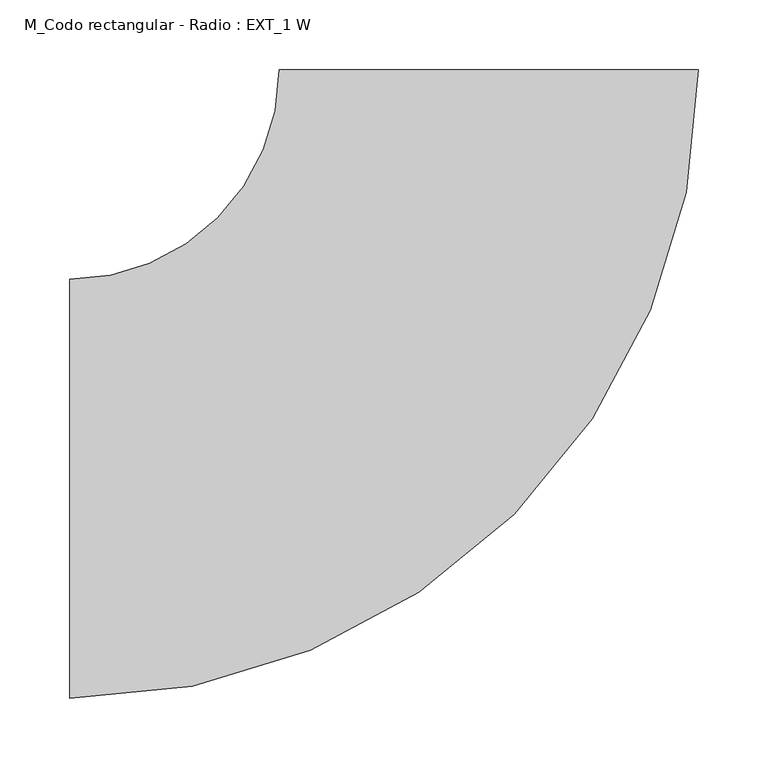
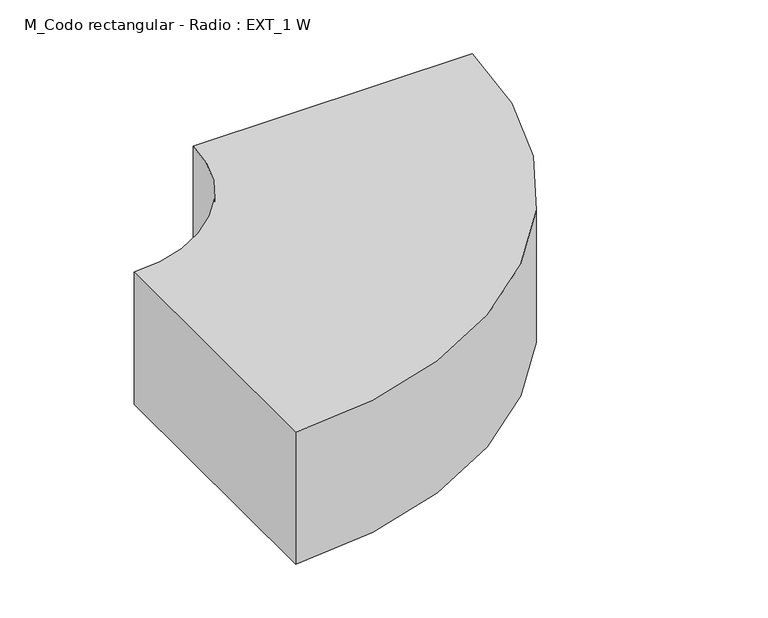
"""IFC4 building model written with IfcOpenShell, lengths in millimetres: duct fitting geometry, M_Codo rectangular - Radio : EXT_1 W."""

from ifc_helpers import new_model, si_unit, point, frame, frame_2d, origin, place, context, project, spatial, polyline, circle_curve, trimmed, segment, composite_curve, outline, extrude, source, transform, mapped, element, save


def m_codo_rectangular_radio_ext_1_w_96c848b7(model_context):
    return source(origin(), model_context, "Body", "SweptSolid", [
        extrude(outline(composite_curve([segment(trimmed(circle_curve(frame_2d((-300.0, 300.0)), 450.0), [point((150.0, 300.0))], [point((-300.0, -150.0))], False, "CARTESIAN"), True, "CONTINUOUS"), segment(polyline([(-300.0, -150.0), (-300.0, 150.0)]), True, "CONTINUOUS"), segment(trimmed(circle_curve(frame_2d((-300.0, 300.0)), 150.0), [point((-300.0, 150.0))], [point((-150.0, 300.0))], True, "CARTESIAN"), True, "CONTINUOUS"), segment(polyline([(-150.0, 300.0), (150.0, 300.0)]), True, "CONTINUOUS")], self_intersect=False)), frame((0.0, 0.0, -75.0), z_axis=(0.0, 0.0, 1.0), x_axis=(1.0, 0.0, 0.0)), (0.0, 0.0, 1.0), 150.0),
    ])


if __name__ == "__main__":
    model = new_model("IFC4")
    model_context = context("Model", 3, world=origin())
    ifc_project = project(units=[si_unit("LENGTHUNIT", "METRE", prefix="MILLI")], contexts=[model_context])
    site = spatial("IfcSite", under=ifc_project)
    building = spatial("IfcBuilding", under=site)
    placement = place(None, origin())
    m_codo_rectangular_radio_ext_1_w_shape = m_codo_rectangular_radio_ext_1_w_96c848b7(model_context)
    element("IfcDuctFitting", 1, ObjectType="M_Codo rectangular - Radio : EXT_1 W", at=placement, inside=building, context=model_context, shape_type="MappedRepresentation", body=[
        mapped(m_codo_rectangular_radio_ext_1_w_shape, transform((0.0, 0.0, 0.0), x_axis=(1.0, 0.0, 0.0), y_axis=(0.0, 1.0, 0.0), z_axis=(0.0, 0.0, 1.0))),
    ])
    save(model, "model.ifc")
